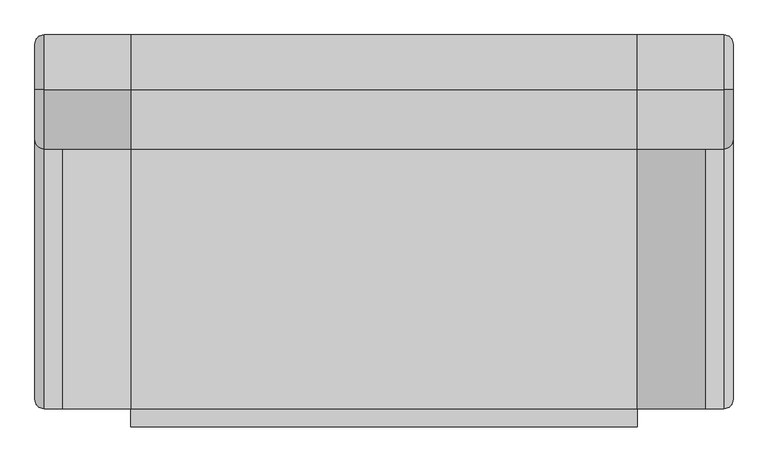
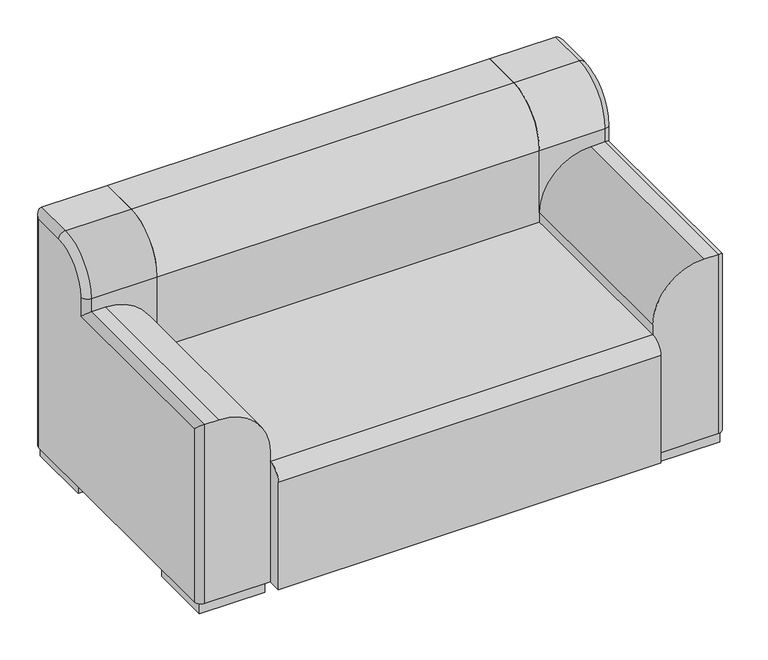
"""IFC4 building model written with IfcOpenShell, lengths in millimetres: furniture geometry, NBS_PineappleContracts_DmstcChrs_Magna2SeaterSofa : NBS_PineappleContracts_DomesticChairs_Magna2SeaterSofa."""

from ifc_helpers import new_model, si_unit, point, frame, frame_2d, origin, origin_with_axes, place, context, project, spatial, polyline, circle_curve, ellipse_curve, trimmed, segment, composite_curve, outline, extrude, source, transform, mapped, element, save
from ifc_brep_helpers import plane_surface, cylinder_surface, revolved_surface, advanced_brep


def furniture_385b3342(model_context):
    return source(origin(), model_context, "Body", "SolidModel", [
        advanced_brep(
        [(-765.0, 60.0, 35.0), (-765.0, 60.0, 565.0), (-765.0, 630.0, 565.0), (-765.0, 630.0, 625.0), (-765.0, 740.0, 735.0), (-765.0, 840.0, 735.0), (-765.0, 840.0, 35.0), (-555.0, 610.0, 435.0), (-555.0, 40.0, 435.0), (-555.0, 40.0, 35.0), (-555.0, 860.0, 35.0), (-555.0, 860.0, 755.0), (-555.0, 740.0, 755.0), (-555.0, 610.0, 625.0), (-705.0, 40.0, 585.0), (-745.0, 40.0, 585.0), (-745.0, 40.0, 35.0), (-745.0, 860.0, 35.0), (-745.0, 860.0, 755.0), (-745.0, 740.0, 755.0), (-745.0, 610.0, 625.0), (-745.0, 610.0, 585.0), (-705.0, 610.0, 585.0)],
        [
            (0, 1),
            (1, 2),
            (2, 3),
            (3, 4, circle_curve(frame((-765.0, 740.0, 625.0), z_axis=(-1.0, 0.0, 0.0), x_axis=(0.0, -1.0, 0.0)), 110.0)),
            (4, 5),
            (5, 6),
            (6, 0),
            (7, 8),
            (8, 9),
            (9, 10),
            (10, 11),
            (11, 12),
            (12, 13, circle_curve(frame((-555.0, 740.0, 625.0), z_axis=(1.0, 0.0, 0.0), x_axis=(0.0, -1.0, 0.0)), 130.0)),
            (13, 7),
            (8, 14, circle_curve(frame((-705.0, 40.0, 435.0), z_axis=(0.0, -1.0, 0.0), x_axis=(-1.0, 0.0, 0.0)), 150.0)),
            (14, 15),
            (15, 16),
            (16, 9),
            (16, 0, circle_curve(frame((-745.0, 60.0, 35.0), z_axis=(0.0, 0.0, -1.0), x_axis=(-1.0, 0.0, 0.0)), 20.0)),
            (6, 17, circle_curve(frame((-745.0, 840.0, 35.0), z_axis=(0.0, 0.0, -1.0), x_axis=(-1.0, 0.0, 0.0)), 20.0)),
            (17, 10),
            (17, 18),
            (18, 11),
            (18, 19),
            (19, 12),
            (19, 20, circle_curve(frame((-745.0, 740.0, 625.0), z_axis=(1.0, 0.0, 0.0), x_axis=(0.0, -1.0, 0.0)), 130.0)),
            (20, 13),
            (20, 21),
            (21, 22),
            (22, 7, circle_curve(frame((-705.0, 610.0, 435.0), z_axis=(0.0, 1.0, 0.0), x_axis=(-1.0, 0.0, 0.0)), 150.0)),
            (14, 22),
            (21, 15),
            (15, 1, ellipse_curve(frame((-745.0, 60.0, 565.0), z_axis=(0.0, -0.7071067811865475, -0.7071067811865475), x_axis=(0.0, -0.7071067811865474, 0.7071067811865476)), 28.2842712, 20.0)),
            (21, 2, ellipse_curve(frame((-745.0, 630.0, 565.0), z_axis=(0.0, -0.7071067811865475, -0.7071067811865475), x_axis=(0.0, 0.7071067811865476, -0.7071067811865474)), 28.2842712, 20.0)),
            (20, 3, circle_curve(frame((-745.0, 630.0, 625.0), z_axis=(0.0, 0.0, -1.0), x_axis=(-1.0, 0.0, 0.0)), 20.0)),
            (19, 4, circle_curve(frame((-745.0, 740.0, 735.0), z_axis=(0.0, -1.0, 0.0), x_axis=(-1.0, 0.0, 0.0)), 20.0)),
            (18, 5, ellipse_curve(frame((-745.0, 840.0, 735.0), z_axis=(0.0, -0.7071067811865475, 0.7071067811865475), x_axis=(0.0, 0.7071067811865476, 0.7071067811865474)), 28.2842712, 20.0)),
        ],
        [
            plane_surface(frame((-765.0, 40.0, 45.0), z_axis=(-1.0, 0.0, 0.0), x_axis=(0.0, 0.0, -1.0))),
            plane_surface(frame((-555.0, 40.0, 45.0), z_axis=(1.0, 0.0, 0.0), x_axis=(0.0, 0.0, 1.0))),
            plane_surface(frame((-765.0, 40.0, 585.0), z_axis=(0.0, -1.0, 0.0), x_axis=(1.0, 0.0, 0.0))),
            plane_surface(frame((-765.0, 40.0, 35.0), z_axis=(0.0, 0.0, -1.0), x_axis=(1.0, 0.0, 0.0))),
            plane_surface(frame((-765.0, 860.0, 35.0), z_axis=(0.0, 1.0, 0.0), x_axis=(1.0, 0.0, 0.0))),
            plane_surface(frame((-765.0, 860.0, 755.0), z_axis=(0.0, 0.0, 1.0), x_axis=(1.0, 0.0, 0.0))),
            cylinder_surface(frame((-555.0, 740.0, 625.0), z_axis=(-1.0, 0.0, 0.0), x_axis=(0.0, -1.0, 0.0)), 130.0),
            plane_surface(frame((-765.0, 610.0, 625.0), z_axis=(0.0, -1.0, 0.0), x_axis=(1.0, 0.0, 0.0))),
            plane_surface(frame((-765.0, 610.0, 585.0), z_axis=(0.0, 0.0, 1.0), x_axis=(1.0, 0.0, 0.0))),
            cylinder_surface(frame((-745.0, 60.0, 35.0), z_axis=(0.0, 0.0, 1.0), x_axis=(-1.0, 0.0, 0.0)), 20.0),
            cylinder_surface(frame((-745.0, 40.0, 565.0), z_axis=(0.0, 1.0, 0.0), x_axis=(-1.0, 0.0, 0.0)), 20.0),
            cylinder_surface(frame((-745.0, 630.0, 585.0), z_axis=(0.0, 0.0, 1.0), x_axis=(-1.0, 0.0, 0.0)), 20.0),
            revolved_surface(trimmed(ellipse_curve(frame((-745.0, 630.0, 625.0), z_axis=(0.0, 0.0, 1.0), x_axis=(-1.0, 0.0, 0.0)), 20.0, 20.0), [point((-765.0, 630.0, 625.0))], [point((-745.0, 610.0, 625.0))], True, "CARTESIAN"), (-830.0, 740.0, 625.0), (1.0, 0.0, 0.0)),
            cylinder_surface(frame((-745.0, 740.0, 735.0), z_axis=(0.0, 1.0, 0.0), x_axis=(-1.0, 0.0, 0.0)), 20.0),
            cylinder_surface(frame((-745.0, 840.0, 755.0), z_axis=(0.0, 0.0, -1.0), x_axis=(-1.0, 0.0, 0.0)), 20.0),
            cylinder_surface(frame((-705.0, 5.0, 435.0), z_axis=(0.0, 1.0, 0.0), x_axis=(-1.0, 0.0, 0.0)), 150.0),
        ],
        [
            (0, [[1, 2, 3, 4, 5, 6, 7]]),
            (1, [[8, 9, 10, 11, 12, 13, 14]]),
            (2, [[-9, 15, 16, 17, 18]]),
            (3, [[-18, 19, -7, 20, 21, -10]]),
            (4, [[-21, 22, 23, -11]]),
            (5, [[-23, 24, 25, -12]]),
            (6, [[-25, 26, 27, -13]]),
            (7, [[-14, -27, 28, 29, 30]]),
            (8, [[-16, 31, -29, 32]]),
            (9, [[-1, -19, -17, 33]]),
            (10, [[-32, 34, -2, -33]]),
            (11, [[-28, 35, -3, -34]]),
            (12, [[-26, 36, -4, -35]]),
            (13, [[-24, 37, -5, -36]]),
            (14, [[-22, -20, -6, -37]]),
            (15, [[-31, -15, -8, -30]]),
        ],
    ),
        extrude(outline(polyline([(-755.0, 660.0), (-755.0, 850.0), (-565.0, 850.0), (-565.0, 660.0), (-755.0, 660.0)])), origin_with_axes(), (0.0, 0.0, 1.0), 35.0),
        extrude(outline(polyline([(-565.0, 50.0), (-755.0, 50.0), (-755.0, 240.0), (-565.0, 240.0), (-565.0, 50.0)])), origin_with_axes(), (0.0, 0.0, 1.0), 35.0),
        advanced_brep(
        [(765.0, 60.0, 35.0), (765.0, 840.0, 35.0), (765.0, 840.0, 735.0), (765.0, 740.0, 735.0), (765.0, 630.0, 625.0), (765.0, 630.0, 565.0), (765.0, 60.0, 565.0), (555.0, 610.0, 435.0), (555.0, 610.0, 625.0), (555.0, 740.0, 755.0), (555.0, 860.0, 755.0), (555.0, 860.0, 35.0), (555.0, 40.0, 35.0), (555.0, 40.0, 435.0), (745.0, 40.0, 35.0), (745.0, 40.0, 585.0), (705.0, 40.0, 585.0), (745.0, 860.0, 35.0), (745.0, 860.0, 755.0), (745.0, 740.0, 755.0), (745.0, 610.0, 625.0), (705.0, 610.0, 585.0), (745.0, 610.0, 585.0)],
        [
            (0, 1),
            (1, 2),
            (2, 3),
            (3, 4, circle_curve(frame((765.0, 740.0, 625.0), z_axis=(1.0, 0.0, 0.0), x_axis=(0.0, -1.0, 0.0)), 110.0)),
            (4, 5),
            (5, 6),
            (6, 0),
            (7, 8),
            (8, 9, circle_curve(frame((555.0, 740.0, 625.0), z_axis=(-1.0, 0.0, 0.0), x_axis=(0.0, -1.0, 0.0)), 130.0)),
            (9, 10),
            (10, 11),
            (11, 12),
            (12, 13),
            (13, 7),
            (12, 14),
            (14, 15),
            (15, 16),
            (16, 13, circle_curve(frame((705.0, 40.0, 435.0), z_axis=(0.0, -1.0, 0.0), x_axis=(1.0, 0.0, 0.0)), 150.0)),
            (11, 17),
            (17, 1, circle_curve(frame((745.0, 840.0, 35.0), z_axis=(0.0, 0.0, -1.0), x_axis=(1.0, 0.0, 0.0)), 20.0)),
            (0, 14, circle_curve(frame((745.0, 60.0, 35.0), z_axis=(0.0, 0.0, -1.0), x_axis=(1.0, 0.0, 0.0)), 20.0)),
            (10, 18),
            (18, 17),
            (9, 19),
            (19, 18),
            (8, 20),
            (20, 19, circle_curve(frame((745.0, 740.0, 625.0), z_axis=(-1.0, 0.0, 0.0), x_axis=(0.0, -1.0, 0.0)), 130.0)),
            (7, 21, circle_curve(frame((705.0, 610.0, 435.0), z_axis=(0.0, 1.0, 0.0), x_axis=(1.0, 0.0, 0.0)), 150.0)),
            (21, 22),
            (22, 20),
            (15, 22),
            (21, 16),
            (6, 15, ellipse_curve(frame((745.0, 60.0, 565.0), z_axis=(0.0, -0.7071067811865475, -0.7071067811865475), x_axis=(0.0, -0.7071067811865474, 0.7071067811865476)), 28.2842712, 20.0)),
            (5, 22, ellipse_curve(frame((745.0, 630.0, 565.0), z_axis=(0.0, -0.7071067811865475, -0.7071067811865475), x_axis=(0.0, 0.7071067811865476, -0.7071067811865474)), 28.2842712, 20.0)),
            (4, 20, circle_curve(frame((745.0, 630.0, 625.0), z_axis=(0.0, 0.0, -1.0), x_axis=(1.0, 0.0, 0.0)), 20.0)),
            (3, 19, circle_curve(frame((745.0, 740.0, 735.0), z_axis=(0.0, -1.0, 0.0), x_axis=(1.0, 0.0, 0.0)), 20.0)),
            (2, 18, ellipse_curve(frame((745.0, 840.0, 735.0), z_axis=(0.0, -0.7071067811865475, 0.7071067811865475), x_axis=(0.0, 0.7071067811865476, 0.7071067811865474)), 28.2842712, 20.0)),
        ],
        [
            plane_surface(frame((765.0, 40.0, 45.0), z_axis=(1.0, 0.0, 0.0), x_axis=(0.0, 0.0, -1.0))),
            plane_surface(frame((555.0, 40.0, 45.0), z_axis=(-1.0, 0.0, 0.0), x_axis=(0.0, 0.0, 1.0))),
            plane_surface(frame((765.0, 40.0, 585.0), z_axis=(0.0, -1.0, 0.0), x_axis=(-1.0, 0.0, 0.0))),
            plane_surface(frame((765.0, 40.0, 35.0), z_axis=(0.0, 0.0, -1.0), x_axis=(-1.0, 0.0, 0.0))),
            plane_surface(frame((765.0, 860.0, 35.0), z_axis=(0.0, 1.0, 0.0), x_axis=(-1.0, 0.0, 0.0))),
            plane_surface(frame((765.0, 860.0, 755.0), z_axis=(0.0, 0.0, 1.0), x_axis=(-1.0, 0.0, 0.0))),
            cylinder_surface(frame((555.0, 740.0, 625.0), z_axis=(1.0, 0.0, 0.0), x_axis=(0.0, -1.0, 0.0)), 130.0),
            plane_surface(frame((765.0, 610.0, 625.0), z_axis=(0.0, -1.0, 0.0), x_axis=(-1.0, 0.0, 0.0))),
            plane_surface(frame((765.0, 610.0, 585.0), z_axis=(0.0, 0.0, 1.0), x_axis=(-1.0, 0.0, 0.0))),
            cylinder_surface(frame((745.0, 60.0, 35.0), z_axis=(0.0, 0.0, 1.0), x_axis=(1.0, 0.0, 0.0)), 20.0),
            cylinder_surface(frame((745.0, 40.0, 565.0), z_axis=(0.0, 1.0, 0.0), x_axis=(1.0, 0.0, 0.0)), 20.0),
            cylinder_surface(frame((745.0, 630.0, 585.0), z_axis=(0.0, 0.0, 1.0), x_axis=(1.0, 0.0, 0.0)), 20.0),
            revolved_surface(trimmed(ellipse_curve(frame((745.0, 630.0, 625.0), z_axis=(0.0, 0.0, -1.0), x_axis=(1.0, 0.0, 0.0)), 20.0, 20.0), [point((765.0, 630.0, 625.0))], [point((745.0, 610.0, 625.0))], True, "CARTESIAN"), (830.0, 740.0, 625.0), (-1.0, 0.0, 0.0)),
            cylinder_surface(frame((745.0, 740.0, 735.0), z_axis=(0.0, 1.0, 0.0), x_axis=(1.0, 0.0, 0.0)), 20.0),
            cylinder_surface(frame((745.0, 840.0, 755.0), z_axis=(0.0, 0.0, -1.0), x_axis=(1.0, 0.0, 0.0)), 20.0),
            cylinder_surface(frame((705.0, 5.0, 435.0), z_axis=(0.0, 1.0, 0.0), x_axis=(1.0, 0.0, 0.0)), 150.0),
        ],
        [
            (0, [[1, 2, 3, 4, 5, 6, 7]]),
            (1, [[8, 9, 10, 11, 12, 13, 14]]),
            (2, [[15, 16, 17, 18, -13]]),
            (3, [[-12, 19, 20, -1, 21, -15]]),
            (4, [[-11, 22, 23, -19]]),
            (5, [[-10, 24, 25, -22]]),
            (6, [[-9, 26, 27, -24]]),
            (7, [[28, 29, 30, -26, -8]]),
            (8, [[31, -29, 32, -17]]),
            (9, [[33, -16, -21, -7]]),
            (10, [[-33, -6, 34, -31]]),
            (11, [[-34, -5, 35, -30]]),
            (12, [[-35, -4, 36, -27]]),
            (13, [[-36, -3, 37, -25]]),
            (14, [[-37, -2, -20, -23]]),
            (15, [[-28, -14, -18, -32]]),
        ],
    ),
        extrude(outline(polyline([(755.0, 660.0), (565.0, 660.0), (565.0, 850.0), (755.0, 850.0), (755.0, 660.0)])), origin_with_axes(), (0.0, 0.0, 1.0), 35.0),
        extrude(outline(polyline([(565.0, 50.0), (565.0, 240.0), (755.0, 240.0), (755.0, 50.0), (565.0, 50.0)])), origin_with_axes(), (0.0, 0.0, 1.0), 35.0),
        extrude(outline(composite_curve([segment(polyline([(860.0, 35.0), (0.0, 35.0), (0.0, 365.0)]), True, "CONTINUOUS"), segment(trimmed(circle_curve(frame_2d((40.0, 365.0)), 40.0), [point((0.0, 365.0))], [point((40.0, 405.0))], False, "CARTESIAN"), True, "CONTINUOUS"), segment(polyline([(40.0, 405.0), (610.0, 405.0), (610.0, 625.0)]), True, "CONTINUOUS"), segment(trimmed(circle_curve(frame_2d((740.0, 625.0)), 130.0), [point((610.0, 625.0))], [point((740.0, 755.0))], False, "CARTESIAN"), True, "CONTINUOUS"), segment(polyline([(740.0, 755.0), (860.0, 755.0), (860.0, 35.0)]), True, "CONTINUOUS")], self_intersect=False)), frame((-555.0, 0.0, 0.0), z_axis=(1.0, 0.0, 0.0), x_axis=(0.0, 1.0, 0.0)), (0.0, 0.0, 1.0), 1110.0),
    ])


if __name__ == "__main__":
    model = new_model("IFC4")
    model_context = context("Model", 3, world=origin())
    ifc_project = project(units=[si_unit("LENGTHUNIT", "METRE", prefix="MILLI")], contexts=[model_context])
    site = spatial("IfcSite", under=ifc_project)
    building = spatial("IfcBuilding", under=site)
    placement = place(None, origin())
    furniture_shape = furniture_385b3342(model_context)
    element("IfcFurniture", 1, ObjectType="NBS_PineappleContracts_DmstcChrs_Magna2SeaterSofa : NBS_PineappleContracts_DomesticChairs_Magna2SeaterSofa", at=placement, inside=building, context=model_context, shape_type="MappedRepresentation", body=[
        mapped(furniture_shape, transform((0.0, 0.0, 0.0), x_axis=(1.0, 0.0, 0.0), y_axis=(0.0, 1.0, 0.0), z_axis=(0.0, 0.0, 1.0))),
    ])
    save(model, "model.ifc")
